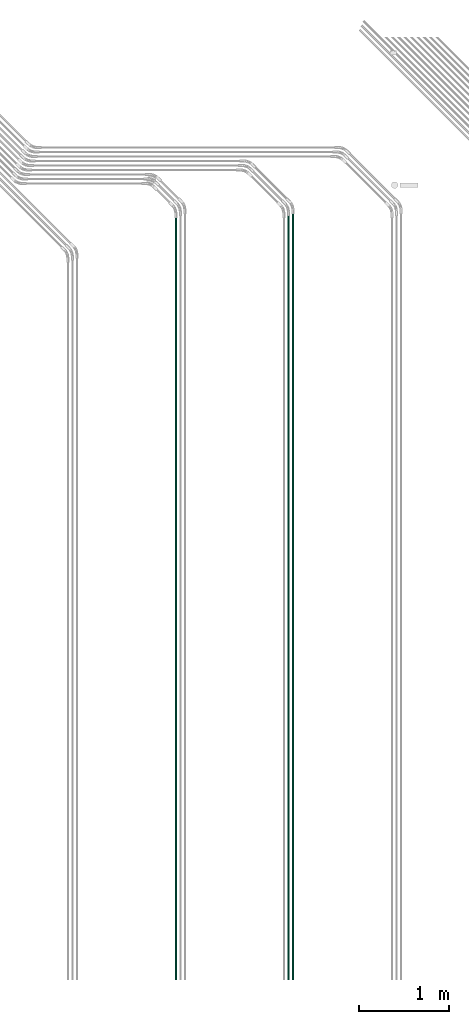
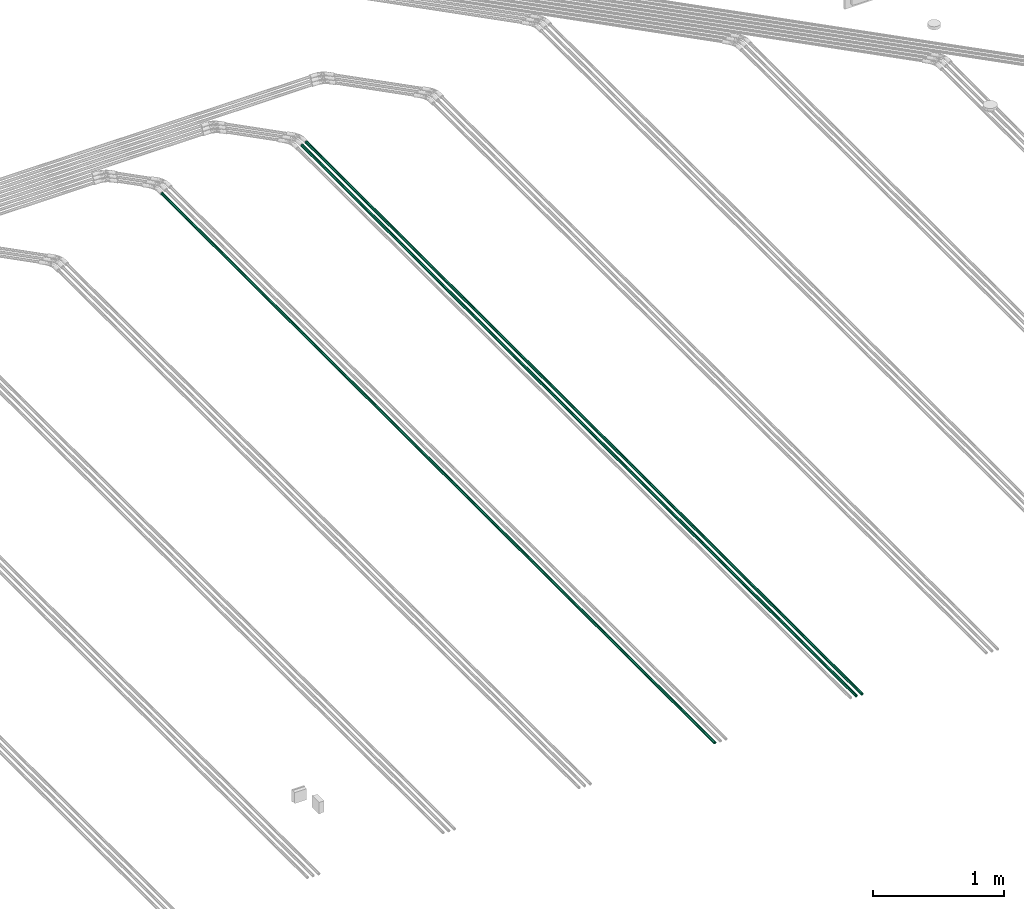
# One storey, part 35 of 51: 3 flow segments.
"""IFC2X3 building model written with IfcOpenShell, lengths in millimetres."""

from ifc_helpers import new_model, entity, si_unit, converted_unit, derived_unit, direction, frame, place, context, subcontext, project, spatial, faceted_brep, type_object, element, save


model = new_model("IFC2X3")

# Units and contexts
model_context = context("Model", 3, precision=0.01, world=frame((0.0, 4.29681676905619e-09, 0.0)), true_north=direction((4.01073788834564e-13, 1.0)))
plan_context = context("Plan", 3, precision=0.01, world=frame((0.0, 4.29681676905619e-09, 0.0)), true_north=direction((4.01073788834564e-13, 1.0)))
body_context = subcontext(model_context, "Body", "Model", "MODEL_VIEW")
ifc_project = project(units=[converted_unit("PLANEANGLEUNIT", "DEGREE", entity("IfcPositiveLengthMeasure", 0.0174532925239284), si_unit("PLANEANGLEUNIT", "RADIAN"), dimensions=[0, 0, 0, 0, 0, 0, 0]), si_unit("AREAUNIT", "SQUARE_METRE"), si_unit("LENGTHUNIT", "METRE", prefix="MILLI"), si_unit("MASSUNIT", "GRAM", prefix="KILO"), si_unit("POWERUNIT", "WATT"), si_unit("PRESSUREUNIT", "PASCAL"), si_unit("FORCEUNIT", "NEWTON", prefix="KILO"), si_unit("ELECTRICVOLTAGEUNIT", "VOLT"), si_unit("ELECTRICCURRENTUNIT", "AMPERE"), si_unit("THERMODYNAMICTEMPERATUREUNIT", "DEGREE_CELSIUS"), si_unit("TIMEUNIT", "SECOND"), si_unit("VOLUMEUNIT", "CUBIC_METRE"), derived_unit("LINEARVELOCITYUNIT", [(si_unit("LENGTHUNIT", "METRE"), 1), (si_unit("TIMEUNIT", "SECOND"), -1)]), derived_unit("VOLUMETRICFLOWRATEUNIT", [(si_unit("VOLUMEUNIT", "CUBIC_METRE"), 1), (si_unit("TIMEUNIT", "SECOND"), -1)]), derived_unit("THERMALTRANSMITTANCEUNIT", [(si_unit("POWERUNIT", "WATT"), 1), (si_unit("THERMODYNAMICTEMPERATUREUNIT", "KELVIN"), -1), (si_unit("AREAUNIT", "SQUARE_METRE"), -1)]), derived_unit("SOUNDPRESSUREUNIT", [(si_unit("PRESSUREUNIT", "PASCAL"), 1)])], contexts=[model_context, plan_context])

# Site, building, storey
site_placement = place(None, frame((0.0, -4.29681676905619e-09, 0.0), z_axis=(0.0, 0.0, 1.0), x_axis=(1.0, 0.0, 0.0)))
site = spatial("IfcSite", under=ifc_project, at=site_placement, Name="ENGM", CompositionType="ELEMENT")
building_placement = place(site_placement, frame((0.0, 4.29681676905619e-09, 0.0), z_axis=(0.0, 0.0, 1.0), x_axis=(1.0, 0.0, 0.0)))
building = spatial("IfcBuilding", under=site, at=building_placement, Name="TI", CompositionType="ELEMENT")
storey_placement = place(building_placement, frame((0.0, 0.0, 210900.0), z_axis=(0.0, 0.0, 1.0), x_axis=(1.0, 0.0, 0.0)))
storey = spatial("IfcBuildingStorey", under=building, at=storey_placement, Name="Nivå F", CompositionType="ELEMENT", Elevation=210900.0)

# Flow segments
cable_carrier_segment_type = type_object("IfcCableCarrierSegmentType", Name="Trekkerør, korrugert", PredefinedType="CONDUITSEGMENT")
flow_segment_1_placement = place(storey_placement, frame((605224.59, 697504.99647, -56.7999999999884), z_axis=(0.0, 0.0, 1.0), x_axis=(0.0, -1.0, 0.0)))
element("IfcFlowSegment", 1, at=flow_segment_1_placement, inside=storey, type_object=cable_carrier_segment_type, Name="Trekkerør, korrugert", context=body_context, shape_type="Brep", body=[
    faceted_brep([(8504.99647000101, 10.5, 0.0), (8504.99647000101, 10.3404814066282, -1.82330586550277), (0.0, 10.3404814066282, -1.82330586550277), (0.0, 10.5, 0.0), (8504.99647000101, 9.86677251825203, -3.59121150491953), (0.0, 9.86677251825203, -3.59121150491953), (8504.99647000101, 9.0932667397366, -5.25), (0.0, 9.0932667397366, -5.25), (8504.99647000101, 8.04346665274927, -6.74926990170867), (0.0, 8.04346665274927, -6.74926990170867), (8504.99647000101, 6.74926990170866, -8.04346665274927), (0.0, 6.74926990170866, -8.04346665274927), (8504.99647000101, 5.25, -9.09326673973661), (0.0, 5.25, -9.09326673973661), (8504.99647000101, 3.59121150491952, -9.86677251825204), (0.0, 3.59121150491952, -9.86677251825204), (8504.99647000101, 1.82330586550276, -10.3404814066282), (0.0, 1.82330586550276, -10.3404814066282), (8504.99647000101, -1.92881870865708e-15, -10.5), (0.0, -1.92881870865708e-15, -10.5), (8504.99647000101, -1.82330586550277, -10.3404814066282), (0.0, -1.82330586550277, -10.3404814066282), (8504.99647000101, -3.59121150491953, -9.86677251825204), (0.0, -3.59121150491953, -9.86677251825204), (8504.99647000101, -5.25, -9.0932667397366), (0.0, -5.25, -9.0932667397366), (8504.99647000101, -6.74926990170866, -8.04346665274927), (0.0, -6.74926990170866, -8.04346665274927), (8504.99647000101, -8.04346665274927, -6.74926990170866), (0.0, -8.04346665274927, -6.74926990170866), (8504.99647000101, -9.09326673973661, -5.25), (0.0, -9.09326673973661, -5.25), (8504.99647000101, -9.86677251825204, -3.59121150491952), (0.0, -9.86677251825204, -3.59121150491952), (8504.99647000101, -10.3404814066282, -1.82330586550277), (0.0, -10.3404814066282, -1.82330586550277), (8504.99647000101, -10.5, 1.28587913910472e-15), (0.0, -10.5, 1.28587913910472e-15), (8504.99647000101, -10.3404814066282, 1.82330586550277), (0.0, -10.3404814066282, 1.82330586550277), (8504.99647000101, -9.86677251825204, 3.59121150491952), (0.0, -9.86677251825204, 3.59121150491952), (8504.99647000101, -9.09326673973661, 5.25), (0.0, -9.09326673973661, 5.25), (8504.99647000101, -8.04346665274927, 6.74926990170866), (0.0, -8.04346665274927, 6.74926990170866), (8504.99647000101, -6.74926990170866, 8.04346665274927), (0.0, -6.74926990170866, 8.04346665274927), (8504.99647000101, -5.25, 9.09326673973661), (0.0, -5.25, 9.09326673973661), (8504.99647000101, -3.59121150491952, 9.86677251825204), (0.0, -3.59121150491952, 9.86677251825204), (8504.99647000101, -1.82330586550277, 10.3404814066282), (0.0, -1.82330586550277, 10.3404814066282), (8504.99647000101, 6.4293956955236e-16, 10.5), (0.0, 6.4293956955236e-16, 10.5), (8504.99647000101, 1.82330586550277, 10.3404814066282), (0.0, 1.82330586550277, 10.3404814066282), (8504.99647000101, 3.59121150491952, 9.86677251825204), (0.0, 3.59121150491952, 9.86677251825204), (8504.99647000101, 5.25, 9.09326673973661), (0.0, 5.25, 9.09326673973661), (8504.99647000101, 6.74926990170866, 8.04346665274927), (0.0, 6.74926990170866, 8.04346665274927), (8504.99647000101, 8.04346665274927, 6.74926990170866), (0.0, 8.04346665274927, 6.74926990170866), (8504.99647000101, 9.09326673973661, 5.25), (0.0, 9.09326673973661, 5.25), (8504.99647000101, 9.86677251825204, 3.59121150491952), (0.0, 9.86677251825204, 3.59121150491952), (8504.99647000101, 10.3404814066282, 1.82330586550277), (0.0, 10.3404814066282, 1.82330586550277), (8504.99647000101, 12.3100969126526, -2.17060222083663), (8504.99647000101, 12.5, 0.0), (0.0, 12.5, 0.0), (0.0, 12.3100969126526, -2.17060222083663), (8504.99647000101, 12.3100969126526, 2.17060222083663), (0.0, 12.3100969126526, 2.17060222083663), (8504.99647000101, 11.7461577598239, 4.27525179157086), (0.0, 11.7461577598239, 4.27525179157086), (8504.99647000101, 10.8253175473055, 6.25), (0.0, 10.8253175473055, 6.25), (8504.99647000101, 9.57555553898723, 8.03484512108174), (0.0, 9.57555553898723, 8.03484512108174), (8504.99647000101, 8.03484512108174, 9.57555553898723), (0.0, 8.03484512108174, 9.57555553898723), (8504.99647000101, 6.25, 10.8253175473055), (0.0, 6.25, 10.8253175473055), (8504.99647000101, 4.27525179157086, 11.7461577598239), (0.0, 4.27525179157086, 11.7461577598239), (8504.99647000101, 2.17060222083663, 12.3100969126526), (0.0, 2.17060222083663, 12.3100969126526), (8504.99647000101, 7.65404249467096e-16, 12.5), (0.0, 7.65404249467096e-16, 12.5), (8504.99647000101, -2.17060222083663, 12.3100969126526), (0.0, -2.17060222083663, 12.3100969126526), (8504.99647000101, -4.27525179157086, 11.7461577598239), (0.0, -4.27525179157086, 11.7461577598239), (8504.99647000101, -6.25, 10.8253175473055), (0.0, -6.25, 10.8253175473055), (8504.99647000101, -8.03484512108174, 9.57555553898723), (0.0, -8.03484512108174, 9.57555553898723), (8504.99647000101, -9.57555553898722, 8.03484512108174), (0.0, -9.57555553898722, 8.03484512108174), (8504.99647000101, -10.8253175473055, 6.25), (0.0, -10.8253175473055, 6.25), (8504.99647000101, -11.7461577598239, 4.27525179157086), (0.0, -11.7461577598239, 4.27525179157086), (8504.99647000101, -12.3100969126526, 2.17060222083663), (0.0, -12.3100969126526, 2.17060222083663), (8504.99647000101, -12.5, 1.53080849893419e-15), (0.0, -12.5, 1.53080849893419e-15), (8504.99647000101, -12.3100969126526, -2.17060222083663), (0.0, -12.3100969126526, -2.17060222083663), (8504.99647000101, -11.7461577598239, -4.27525179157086), (0.0, -11.7461577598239, -4.27525179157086), (8504.99647000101, -10.8253175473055, -6.25), (0.0, -10.8253175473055, -6.25), (8504.99647000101, -9.57555553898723, -8.03484512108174), (0.0, -9.57555553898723, -8.03484512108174), (8504.99647000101, -8.03484512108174, -9.57555553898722), (0.0, -8.03484512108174, -9.57555553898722), (8504.99647000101, -6.25000000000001, -10.8253175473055), (0.0, -6.25000000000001, -10.8253175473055), (8504.99647000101, -4.27525179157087, -11.7461577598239), (0.0, -4.27525179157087, -11.7461577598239), (8504.99647000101, -2.17060222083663, -12.3100969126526), (0.0, -2.17060222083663, -12.3100969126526), (8504.99647000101, -2.29621274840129e-15, -12.5), (0.0, -2.29621274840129e-15, -12.5), (8504.99647000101, 2.17060222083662, -12.3100969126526), (0.0, 2.17060222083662, -12.3100969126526), (8504.99647000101, 4.27525179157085, -11.7461577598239), (0.0, 4.27525179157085, -11.7461577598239), (8504.99647000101, 6.25, -10.8253175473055), (0.0, 6.25, -10.8253175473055), (8504.99647000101, 8.03484512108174, -9.57555553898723), (0.0, 8.03484512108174, -9.57555553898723), (8504.99647000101, 9.57555553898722, -8.03484512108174), (0.0, 9.57555553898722, -8.03484512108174), (8504.99647000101, 10.8253175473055, -6.25000000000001), (0.0, 10.8253175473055, -6.25000000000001), (8504.99647000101, 11.7461577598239, -4.27525179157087), (0.0, 11.7461577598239, -4.27525179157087)], [[[0, 1, 2, 3]], [[1, 4, 5, 2]], [[4, 6, 7, 5]], [[6, 8, 9, 7]], [[8, 10, 11, 9]], [[10, 12, 13, 11]], [[12, 14, 15, 13]], [[14, 16, 17, 15]], [[16, 18, 19, 17]], [[18, 20, 21, 19]], [[20, 22, 23, 21]], [[22, 24, 25, 23]], [[24, 26, 27, 25]], [[26, 28, 29, 27]], [[28, 30, 31, 29]], [[30, 32, 33, 31]], [[32, 34, 35, 33]], [[34, 36, 37, 35]], [[36, 38, 39, 37]], [[38, 40, 41, 39]], [[40, 42, 43, 41]], [[42, 44, 45, 43]], [[44, 46, 47, 45]], [[46, 48, 49, 47]], [[48, 50, 51, 49]], [[50, 52, 53, 51]], [[52, 54, 55, 53]], [[54, 56, 57, 55]], [[56, 58, 59, 57]], [[58, 60, 61, 59]], [[60, 62, 63, 61]], [[62, 64, 65, 63]], [[64, 66, 67, 65]], [[66, 68, 69, 67]], [[68, 70, 71, 69]], [[70, 0, 3, 71]], [[72, 73, 74, 75]], [[73, 76, 77, 74]], [[76, 78, 79, 77]], [[78, 80, 81, 79]], [[80, 82, 83, 81]], [[82, 84, 85, 83]], [[84, 86, 87, 85]], [[86, 88, 89, 87]], [[88, 90, 91, 89]], [[90, 92, 93, 91]], [[92, 94, 95, 93]], [[94, 96, 97, 95]], [[96, 98, 99, 97]], [[98, 100, 101, 99]], [[100, 102, 103, 101]], [[102, 104, 105, 103]], [[104, 106, 107, 105]], [[106, 108, 109, 107]], [[108, 110, 111, 109]], [[110, 112, 113, 111]], [[112, 114, 115, 113]], [[114, 116, 117, 115]], [[116, 118, 119, 117]], [[118, 120, 121, 119]], [[120, 122, 123, 121]], [[122, 124, 125, 123]], [[124, 126, 127, 125]], [[126, 128, 129, 127]], [[128, 130, 131, 129]], [[130, 132, 133, 131]], [[132, 134, 135, 133]], [[134, 136, 137, 135]], [[136, 138, 139, 137]], [[138, 140, 141, 139]], [[140, 142, 143, 141]], [[142, 72, 75, 143]], [[75, 74, 77, 79, 81, 83, 85, 87, 89, 91, 93, 95, 97, 99, 101, 103, 105, 107, 109, 111, 113, 115, 117, 119, 121, 123, 125, 127, 129, 131, 133, 135, 137, 139, 141, 143], [3, 2, 5, 7, 9, 11, 13, 15, 17, 19, 21, 23, 25, 27, 29, 31, 33, 35, 37, 39, 41, 43, 45, 47, 49, 51, 53, 55, 57, 59, 61, 63, 65, 67, 69, 71]], [[142, 140, 138, 136, 134, 132, 130, 128, 126, 124, 122, 120, 118, 116, 114, 112, 110, 108, 106, 104, 102, 100, 98, 96, 94, 92, 90, 88, 86, 84, 82, 80, 78, 76, 73, 72], [70, 68, 66, 64, 62, 60, 58, 56, 54, 52, 50, 48, 46, 44, 42, 40, 38, 36, 34, 32, 30, 28, 26, 24, 22, 20, 18, 16, 14, 12, 10, 8, 6, 4, 1, 0]]], orient=[[False], [False], [False], [False], [False], [False], [False], [False], [False], [False], [False], [False], [False], [False], [False], [False], [False], [False], [False], [False], [False], [False], [False], [False], [False], [False], [False], [False], [False], [False], [False], [False], [False], [False], [False], [False], [False], [False], [False], [False], [False], [False], [False], [False], [False], [False], [False], [False], [False], [False], [False], [False], [False], [False], [False], [False], [False], [False], [False], [False], [False], [False], [False], [False], [False], [False], [False], [False], [False], [False], [False], [False], [False, False], [False, False]]),
])
flow_segment_2_placement = place(storey_placement, frame((605174.59, 697484.28579, -56.7999999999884), z_axis=(0.0, 0.0, 1.0), x_axis=(0.0, -1.0, 0.0)))
element("IfcFlowSegment", 2, at=flow_segment_2_placement, inside=storey, type_object=cable_carrier_segment_type, Name="Trekkerør, korrugert", context=body_context, shape_type="Brep", body=[
    faceted_brep([(8484.28579000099, 10.5, 0.0), (8484.28579000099, 10.3404814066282, -1.82330586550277), (0.0, 10.3404814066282, -1.82330586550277), (0.0, 10.5, 0.0), (8484.28579000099, 9.86677251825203, -3.59121150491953), (0.0, 9.86677251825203, -3.59121150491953), (8484.28579000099, 9.0932667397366, -5.25), (0.0, 9.0932667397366, -5.25), (8484.28579000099, 8.04346665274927, -6.74926990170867), (0.0, 8.04346665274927, -6.74926990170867), (8484.28579000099, 6.74926990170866, -8.04346665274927), (0.0, 6.74926990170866, -8.04346665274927), (8484.28579000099, 5.25, -9.09326673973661), (0.0, 5.25, -9.09326673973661), (8484.28579000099, 3.59121150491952, -9.86677251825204), (0.0, 3.59121150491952, -9.86677251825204), (8484.28579000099, 1.82330586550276, -10.3404814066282), (0.0, 1.82330586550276, -10.3404814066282), (8484.28579000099, -1.92881870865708e-15, -10.5), (0.0, -1.92881870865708e-15, -10.5), (8484.28579000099, -1.82330586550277, -10.3404814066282), (0.0, -1.82330586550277, -10.3404814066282), (8484.28579000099, -3.59121150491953, -9.86677251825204), (0.0, -3.59121150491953, -9.86677251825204), (8484.28579000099, -5.25, -9.0932667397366), (0.0, -5.25, -9.0932667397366), (8484.28579000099, -6.74926990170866, -8.04346665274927), (0.0, -6.74926990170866, -8.04346665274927), (8484.28579000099, -8.04346665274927, -6.74926990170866), (0.0, -8.04346665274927, -6.74926990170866), (8484.28579000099, -9.09326673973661, -5.25), (0.0, -9.09326673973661, -5.25), (8484.28579000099, -9.86677251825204, -3.59121150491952), (0.0, -9.86677251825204, -3.59121150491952), (8484.28579000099, -10.3404814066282, -1.82330586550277), (0.0, -10.3404814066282, -1.82330586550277), (8484.28579000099, -10.5, 1.28587913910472e-15), (0.0, -10.5, 1.28587913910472e-15), (8484.28579000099, -10.3404814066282, 1.82330586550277), (0.0, -10.3404814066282, 1.82330586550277), (8484.28579000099, -9.86677251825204, 3.59121150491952), (0.0, -9.86677251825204, 3.59121150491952), (8484.28579000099, -9.09326673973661, 5.25), (0.0, -9.09326673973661, 5.25), (8484.28579000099, -8.04346665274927, 6.74926990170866), (0.0, -8.04346665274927, 6.74926990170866), (8484.28579000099, -6.74926990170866, 8.04346665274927), (0.0, -6.74926990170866, 8.04346665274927), (8484.28579000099, -5.25, 9.09326673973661), (0.0, -5.25, 9.09326673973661), (8484.28579000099, -3.59121150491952, 9.86677251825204), (0.0, -3.59121150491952, 9.86677251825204), (8484.28579000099, -1.82330586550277, 10.3404814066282), (0.0, -1.82330586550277, 10.3404814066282), (8484.28579000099, 6.4293956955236e-16, 10.5), (0.0, 6.4293956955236e-16, 10.5), (8484.28579000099, 1.82330586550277, 10.3404814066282), (0.0, 1.82330586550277, 10.3404814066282), (8484.28579000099, 3.59121150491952, 9.86677251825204), (0.0, 3.59121150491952, 9.86677251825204), (8484.28579000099, 5.25, 9.09326673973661), (0.0, 5.25, 9.09326673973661), (8484.28579000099, 6.74926990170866, 8.04346665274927), (0.0, 6.74926990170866, 8.04346665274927), (8484.28579000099, 8.04346665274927, 6.74926990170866), (0.0, 8.04346665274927, 6.74926990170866), (8484.28579000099, 9.09326673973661, 5.25), (0.0, 9.09326673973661, 5.25), (8484.28579000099, 9.86677251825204, 3.59121150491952), (0.0, 9.86677251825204, 3.59121150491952), (8484.28579000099, 10.3404814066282, 1.82330586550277), (0.0, 10.3404814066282, 1.82330586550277), (8484.28579000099, 12.3100969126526, -2.17060222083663), (8484.28579000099, 12.5, 0.0), (0.0, 12.5, 0.0), (0.0, 12.3100969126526, -2.17060222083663), (8484.28579000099, 12.3100969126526, 2.17060222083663), (0.0, 12.3100969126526, 2.17060222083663), (8484.28579000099, 11.7461577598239, 4.27525179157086), (0.0, 11.7461577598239, 4.27525179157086), (8484.28579000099, 10.8253175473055, 6.25), (0.0, 10.8253175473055, 6.25), (8484.28579000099, 9.57555553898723, 8.03484512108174), (0.0, 9.57555553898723, 8.03484512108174), (8484.28579000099, 8.03484512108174, 9.57555553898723), (0.0, 8.03484512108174, 9.57555553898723), (8484.28579000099, 6.25, 10.8253175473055), (0.0, 6.25, 10.8253175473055), (8484.28579000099, 4.27525179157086, 11.7461577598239), (0.0, 4.27525179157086, 11.7461577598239), (8484.28579000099, 2.17060222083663, 12.3100969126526), (0.0, 2.17060222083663, 12.3100969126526), (8484.28579000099, 7.65404249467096e-16, 12.5), (0.0, 7.65404249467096e-16, 12.5), (8484.28579000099, -2.17060222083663, 12.3100969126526), (0.0, -2.17060222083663, 12.3100969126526), (8484.28579000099, -4.27525179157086, 11.7461577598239), (0.0, -4.27525179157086, 11.7461577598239), (8484.28579000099, -6.25, 10.8253175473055), (0.0, -6.25, 10.8253175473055), (8484.28579000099, -8.03484512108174, 9.57555553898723), (0.0, -8.03484512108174, 9.57555553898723), (8484.28579000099, -9.57555553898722, 8.03484512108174), (0.0, -9.57555553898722, 8.03484512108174), (8484.28579000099, -10.8253175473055, 6.25), (0.0, -10.8253175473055, 6.25), (8484.28579000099, -11.7461577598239, 4.27525179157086), (0.0, -11.7461577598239, 4.27525179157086), (8484.28579000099, -12.3100969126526, 2.17060222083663), (0.0, -12.3100969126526, 2.17060222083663), (8484.28579000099, -12.5, 1.53080849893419e-15), (0.0, -12.5, 1.53080849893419e-15), (8484.28579000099, -12.3100969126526, -2.17060222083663), (0.0, -12.3100969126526, -2.17060222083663), (8484.28579000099, -11.7461577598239, -4.27525179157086), (0.0, -11.7461577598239, -4.27525179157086), (8484.28579000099, -10.8253175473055, -6.25), (0.0, -10.8253175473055, -6.25), (8484.28579000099, -9.57555553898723, -8.03484512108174), (0.0, -9.57555553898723, -8.03484512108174), (8484.28579000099, -8.03484512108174, -9.57555553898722), (0.0, -8.03484512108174, -9.57555553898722), (8484.28579000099, -6.25000000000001, -10.8253175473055), (0.0, -6.25000000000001, -10.8253175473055), (8484.28579000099, -4.27525179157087, -11.7461577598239), (0.0, -4.27525179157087, -11.7461577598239), (8484.28579000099, -2.17060222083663, -12.3100969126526), (0.0, -2.17060222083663, -12.3100969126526), (8484.28579000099, -2.29621274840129e-15, -12.5), (0.0, -2.29621274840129e-15, -12.5), (8484.28579000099, 2.17060222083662, -12.3100969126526), (0.0, 2.17060222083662, -12.3100969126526), (8484.28579000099, 4.27525179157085, -11.7461577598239), (0.0, 4.27525179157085, -11.7461577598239), (8484.28579000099, 6.25, -10.8253175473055), (0.0, 6.25, -10.8253175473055), (8484.28579000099, 8.03484512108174, -9.57555553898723), (0.0, 8.03484512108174, -9.57555553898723), (8484.28579000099, 9.57555553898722, -8.03484512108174), (0.0, 9.57555553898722, -8.03484512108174), (8484.28579000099, 10.8253175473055, -6.25000000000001), (0.0, 10.8253175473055, -6.25000000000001), (8484.28579000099, 11.7461577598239, -4.27525179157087), (0.0, 11.7461577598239, -4.27525179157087)], [[[0, 1, 2, 3]], [[1, 4, 5, 2]], [[4, 6, 7, 5]], [[6, 8, 9, 7]], [[8, 10, 11, 9]], [[10, 12, 13, 11]], [[12, 14, 15, 13]], [[14, 16, 17, 15]], [[16, 18, 19, 17]], [[18, 20, 21, 19]], [[20, 22, 23, 21]], [[22, 24, 25, 23]], [[24, 26, 27, 25]], [[26, 28, 29, 27]], [[28, 30, 31, 29]], [[30, 32, 33, 31]], [[32, 34, 35, 33]], [[34, 36, 37, 35]], [[36, 38, 39, 37]], [[38, 40, 41, 39]], [[40, 42, 43, 41]], [[42, 44, 45, 43]], [[44, 46, 47, 45]], [[46, 48, 49, 47]], [[48, 50, 51, 49]], [[50, 52, 53, 51]], [[52, 54, 55, 53]], [[54, 56, 57, 55]], [[56, 58, 59, 57]], [[58, 60, 61, 59]], [[60, 62, 63, 61]], [[62, 64, 65, 63]], [[64, 66, 67, 65]], [[66, 68, 69, 67]], [[68, 70, 71, 69]], [[70, 0, 3, 71]], [[72, 73, 74, 75]], [[73, 76, 77, 74]], [[76, 78, 79, 77]], [[78, 80, 81, 79]], [[80, 82, 83, 81]], [[82, 84, 85, 83]], [[84, 86, 87, 85]], [[86, 88, 89, 87]], [[88, 90, 91, 89]], [[90, 92, 93, 91]], [[92, 94, 95, 93]], [[94, 96, 97, 95]], [[96, 98, 99, 97]], [[98, 100, 101, 99]], [[100, 102, 103, 101]], [[102, 104, 105, 103]], [[104, 106, 107, 105]], [[106, 108, 109, 107]], [[108, 110, 111, 109]], [[110, 112, 113, 111]], [[112, 114, 115, 113]], [[114, 116, 117, 115]], [[116, 118, 119, 117]], [[118, 120, 121, 119]], [[120, 122, 123, 121]], [[122, 124, 125, 123]], [[124, 126, 127, 125]], [[126, 128, 129, 127]], [[128, 130, 131, 129]], [[130, 132, 133, 131]], [[132, 134, 135, 133]], [[134, 136, 137, 135]], [[136, 138, 139, 137]], [[138, 140, 141, 139]], [[140, 142, 143, 141]], [[142, 72, 75, 143]], [[75, 74, 77, 79, 81, 83, 85, 87, 89, 91, 93, 95, 97, 99, 101, 103, 105, 107, 109, 111, 113, 115, 117, 119, 121, 123, 125, 127, 129, 131, 133, 135, 137, 139, 141, 143], [3, 2, 5, 7, 9, 11, 13, 15, 17, 19, 21, 23, 25, 27, 29, 31, 33, 35, 37, 39, 41, 43, 45, 47, 49, 51, 53, 55, 57, 59, 61, 63, 65, 67, 69, 71]], [[142, 140, 138, 136, 134, 132, 130, 128, 126, 124, 122, 120, 118, 116, 114, 112, 110, 108, 106, 104, 102, 100, 98, 96, 94, 92, 90, 88, 86, 84, 82, 80, 78, 76, 73, 72], [70, 68, 66, 64, 62, 60, 58, 56, 54, 52, 50, 48, 46, 44, 42, 40, 38, 36, 34, 32, 30, 28, 26, 24, 22, 20, 18, 16, 14, 12, 10, 8, 6, 4, 1, 0]]], orient=[[False], [False], [False], [False], [False], [False], [False], [False], [False], [False], [False], [False], [False], [False], [False], [False], [False], [False], [False], [False], [False], [False], [False], [False], [False], [False], [False], [False], [False], [False], [False], [False], [False], [False], [False], [False], [False], [False], [False], [False], [False], [False], [False], [False], [False], [False], [False], [False], [False], [False], [False], [False], [False], [False], [False], [False], [False], [False], [False], [False], [False], [False], [False], [False], [False], [False], [False], [False], [False], [False], [False], [False], [False, False], [False, False]]),
])
flow_segment_3_placement = place(storey_placement, frame((603924.59, 677870.39699, -56.7999999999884), z_axis=(0.0, 0.0, 1.0), x_axis=(0.0, 1.0, 0.0)))
element("IfcFlowSegment", 3, at=flow_segment_3_placement, inside=storey, type_object=cable_carrier_segment_type, Name="Trekkerør, korrugert", context=body_context, shape_type="Brep", body=[
    faceted_brep([(11129.603009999, 10.3404814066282, -1.82330586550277), (11129.603009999, 10.5, 0.0), (19593.2, 10.5, 0.0), (19593.2, 10.3404814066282, -1.82330586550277), (11129.603009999, 9.86677251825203, -3.59121150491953), (19593.2, 9.86677251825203, -3.59121150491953), (11129.603009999, 9.0932667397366, -5.25000000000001), (19593.2, 9.0932667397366, -5.25), (11129.603009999, 8.04346665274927, -6.74926990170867), (19593.2, 8.04346665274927, -6.74926990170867), (11129.603009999, 6.74926990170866, -8.04346665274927), (19593.2, 6.74926990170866, -8.04346665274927), (11129.603009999, 5.25, -9.09326673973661), (19593.2, 5.25, -9.09326673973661), (11129.603009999, 3.59121150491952, -9.86677251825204), (19593.2, 3.59121150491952, -9.86677251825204), (11129.603009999, 1.82330586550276, -10.3404814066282), (19593.2, 1.82330586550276, -10.3404814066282), (11129.603009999, -1.92881870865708e-15, -10.5), (19593.2, -1.92881870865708e-15, -10.5), (11129.603009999, -1.82330586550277, -10.3404814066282), (19593.2, -1.82330586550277, -10.3404814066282), (11129.603009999, -3.59121150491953, -9.86677251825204), (19593.2, -3.59121150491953, -9.86677251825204), (11129.603009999, -5.25000000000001, -9.09326673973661), (19593.2, -5.25, -9.0932667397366), (11129.603009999, -6.74926990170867, -8.04346665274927), (19593.2, -6.74926990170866, -8.04346665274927), (11129.603009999, -8.04346665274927, -6.74926990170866), (19593.2, -8.04346665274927, -6.74926990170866), (11129.603009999, -9.09326673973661, -5.25), (19593.2, -9.09326673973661, -5.25), (11129.603009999, -9.86677251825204, -3.59121150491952), (19593.2, -9.86677251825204, -3.59121150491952), (11129.603009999, -10.3404814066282, -1.82330586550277), (19593.2, -10.3404814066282, -1.82330586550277), (11129.603009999, -10.5, 1.28587913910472e-15), (19593.2, -10.5, 1.28587913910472e-15), (11129.603009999, -10.3404814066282, 1.82330586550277), (19593.2, -10.3404814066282, 1.82330586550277), (11129.603009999, -9.86677251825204, 3.59121150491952), (19593.2, -9.86677251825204, 3.59121150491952), (11129.603009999, -9.09326673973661, 5.25), (19593.2, -9.09326673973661, 5.25), (11129.603009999, -8.04346665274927, 6.74926990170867), (19593.2, -8.04346665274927, 6.74926990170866), (11129.603009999, -6.74926990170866, 8.04346665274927), (19593.2, -6.74926990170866, 8.04346665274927), (11129.603009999, -5.25, 9.09326673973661), (19593.2, -5.25, 9.09326673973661), (11129.603009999, -3.59121150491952, 9.86677251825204), (19593.2, -3.59121150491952, 9.86677251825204), (11129.603009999, -1.82330586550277, 10.3404814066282), (19593.2, -1.82330586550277, 10.3404814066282), (11129.603009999, 6.4293956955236e-16, 10.5), (19593.2, 6.4293956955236e-16, 10.5), (11129.603009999, 1.82330586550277, 10.3404814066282), (19593.2, 1.82330586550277, 10.3404814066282), (11129.603009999, 3.59121150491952, 9.86677251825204), (19593.2, 3.59121150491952, 9.86677251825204), (11129.603009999, 5.25, 9.09326673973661), (19593.2, 5.25, 9.09326673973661), (11129.603009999, 6.74926990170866, 8.04346665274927), (19593.2, 6.74926990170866, 8.04346665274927), (11129.603009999, 8.04346665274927, 6.74926990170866), (19593.2, 8.04346665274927, 6.74926990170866), (11129.603009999, 9.09326673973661, 5.25), (19593.2, 9.09326673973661, 5.25), (11129.603009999, 9.86677251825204, 3.59121150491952), (19593.2, 9.86677251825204, 3.59121150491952), (11129.603009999, 10.3404814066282, 1.82330586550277), (19593.2, 10.3404814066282, 1.82330586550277), (11129.603009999, 12.5, 0.0), (11129.603009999, 12.3100969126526, -2.17060222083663), (19593.2, 12.3100969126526, -2.17060222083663), (19593.2, 12.5, 0.0), (11129.603009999, 12.3100969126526, 2.17060222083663), (19593.2, 12.3100969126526, 2.17060222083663), (11129.603009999, 11.7461577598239, 4.27525179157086), (19593.2, 11.7461577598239, 4.27525179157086), (11129.603009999, 10.8253175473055, 6.25), (19593.2, 10.8253175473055, 6.25), (11129.603009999, 9.57555553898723, 8.03484512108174), (19593.2, 9.57555553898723, 8.03484512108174), (11129.603009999, 8.03484512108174, 9.57555553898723), (19593.2, 8.03484512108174, 9.57555553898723), (11129.603009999, 6.25, 10.8253175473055), (19593.2, 6.25, 10.8253175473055), (11129.603009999, 4.27525179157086, 11.7461577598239), (19593.2, 4.27525179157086, 11.7461577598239), (11129.603009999, 2.17060222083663, 12.3100969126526), (19593.2, 2.17060222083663, 12.3100969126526), (11129.603009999, 7.65404249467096e-16, 12.5), (19593.2, 7.65404249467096e-16, 12.5), (11129.603009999, -2.17060222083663, 12.3100969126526), (19593.2, -2.17060222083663, 12.3100969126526), (11129.603009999, -4.27525179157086, 11.7461577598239), (19593.2, -4.27525179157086, 11.7461577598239), (11129.603009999, -6.25, 10.8253175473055), (19593.2, -6.25, 10.8253175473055), (11129.603009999, -8.03484512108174, 9.57555553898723), (19593.2, -8.03484512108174, 9.57555553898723), (11129.603009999, -9.57555553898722, 8.03484512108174), (19593.2, -9.57555553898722, 8.03484512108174), (11129.603009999, -10.8253175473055, 6.25), (19593.2, -10.8253175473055, 6.25), (11129.603009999, -11.7461577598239, 4.27525179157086), (19593.2, -11.7461577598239, 4.27525179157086), (11129.603009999, -12.3100969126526, 2.17060222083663), (19593.2, -12.3100969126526, 2.17060222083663), (11129.603009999, -12.5, 1.53080849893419e-15), (19593.2, -12.5, 1.53080849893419e-15), (11129.603009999, -12.3100969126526, -2.17060222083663), (19593.2, -12.3100969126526, -2.17060222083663), (11129.603009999, -11.7461577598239, -4.27525179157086), (19593.2, -11.7461577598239, -4.27525179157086), (11129.603009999, -10.8253175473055, -6.25), (19593.2, -10.8253175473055, -6.25), (11129.603009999, -9.57555553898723, -8.03484512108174), (19593.2, -9.57555553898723, -8.03484512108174), (11129.603009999, -8.03484512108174, -9.57555553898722), (19593.2, -8.03484512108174, -9.57555553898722), (11129.603009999, -6.25000000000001, -10.8253175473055), (19593.2, -6.25000000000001, -10.8253175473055), (11129.603009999, -4.27525179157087, -11.7461577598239), (19593.2, -4.27525179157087, -11.7461577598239), (11129.603009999, -2.17060222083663, -12.3100969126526), (19593.2, -2.17060222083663, -12.3100969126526), (11129.603009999, -2.29621274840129e-15, -12.5), (19593.2, -2.29621274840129e-15, -12.5), (11129.603009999, 2.17060222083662, -12.3100969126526), (19593.2, 2.17060222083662, -12.3100969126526), (11129.603009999, 4.27525179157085, -11.7461577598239), (19593.2, 4.27525179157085, -11.7461577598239), (11129.603009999, 6.25, -10.8253175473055), (19593.2, 6.25, -10.8253175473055), (11129.603009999, 8.03484512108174, -9.57555553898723), (19593.2, 8.03484512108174, -9.57555553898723), (11129.603009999, 9.57555553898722, -8.03484512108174), (19593.2, 9.57555553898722, -8.03484512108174), (11129.603009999, 10.8253175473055, -6.25000000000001), (19593.2, 10.8253175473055, -6.25000000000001), (11129.603009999, 11.7461577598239, -4.27525179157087), (19593.2, 11.7461577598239, -4.27525179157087)], [[[0, 1, 2, 3]], [[4, 0, 3, 5]], [[6, 4, 5, 7]], [[8, 6, 7, 9]], [[10, 8, 9, 11]], [[12, 10, 11, 13]], [[14, 12, 13, 15]], [[16, 14, 15, 17]], [[18, 16, 17, 19]], [[20, 18, 19, 21]], [[22, 20, 21, 23]], [[24, 22, 23, 25]], [[26, 24, 25, 27]], [[28, 26, 27, 29]], [[30, 28, 29, 31]], [[32, 30, 31, 33]], [[34, 32, 33, 35]], [[36, 34, 35, 37]], [[38, 36, 37, 39]], [[40, 38, 39, 41]], [[42, 40, 41, 43]], [[44, 42, 43, 45]], [[46, 44, 45, 47]], [[48, 46, 47, 49]], [[50, 48, 49, 51]], [[52, 50, 51, 53]], [[54, 52, 53, 55]], [[56, 54, 55, 57]], [[58, 56, 57, 59]], [[60, 58, 59, 61]], [[62, 60, 61, 63]], [[64, 62, 63, 65]], [[66, 64, 65, 67]], [[68, 66, 67, 69]], [[70, 68, 69, 71]], [[1, 70, 71, 2]], [[72, 73, 74, 75]], [[76, 72, 75, 77]], [[78, 76, 77, 79]], [[80, 78, 79, 81]], [[82, 80, 81, 83]], [[84, 82, 83, 85]], [[86, 84, 85, 87]], [[88, 86, 87, 89]], [[90, 88, 89, 91]], [[92, 90, 91, 93]], [[94, 92, 93, 95]], [[96, 94, 95, 97]], [[98, 96, 97, 99]], [[100, 98, 99, 101]], [[102, 100, 101, 103]], [[104, 102, 103, 105]], [[106, 104, 105, 107]], [[108, 106, 107, 109]], [[110, 108, 109, 111]], [[112, 110, 111, 113]], [[114, 112, 113, 115]], [[116, 114, 115, 117]], [[118, 116, 117, 119]], [[120, 118, 119, 121]], [[122, 120, 121, 123]], [[124, 122, 123, 125]], [[126, 124, 125, 127]], [[128, 126, 127, 129]], [[130, 128, 129, 131]], [[132, 130, 131, 133]], [[134, 132, 133, 135]], [[136, 134, 135, 137]], [[138, 136, 137, 139]], [[140, 138, 139, 141]], [[142, 140, 141, 143]], [[73, 142, 143, 74]], [[75, 74, 143, 141, 139, 137, 135, 133, 131, 129, 127, 125, 123, 121, 119, 117, 115, 113, 111, 109, 107, 105, 103, 101, 99, 97, 95, 93, 91, 89, 87, 85, 83, 81, 79, 77], [2, 71, 69, 67, 65, 63, 61, 59, 57, 55, 53, 51, 49, 47, 45, 43, 41, 39, 37, 35, 33, 31, 29, 27, 25, 23, 21, 19, 17, 15, 13, 11, 9, 7, 5, 3]], [[76, 78, 80, 82, 84, 86, 88, 90, 92, 94, 96, 98, 100, 102, 104, 106, 108, 110, 112, 114, 116, 118, 120, 122, 124, 126, 128, 130, 132, 134, 136, 138, 140, 142, 73, 72], [4, 6, 8, 10, 12, 14, 16, 18, 20, 22, 24, 26, 28, 30, 32, 34, 36, 38, 40, 42, 44, 46, 48, 50, 52, 54, 56, 58, 60, 62, 64, 66, 68, 70, 1, 0]]], orient=[[False], [False], [False], [False], [False], [False], [False], [False], [False], [False], [False], [False], [False], [False], [False], [False], [False], [False], [False], [False], [False], [False], [False], [False], [False], [False], [False], [False], [False], [False], [False], [False], [False], [False], [False], [False], [False], [False], [False], [False], [False], [False], [False], [False], [False], [False], [False], [False], [False], [False], [False], [False], [False], [False], [False], [False], [False], [False], [False], [False], [False], [False], [False], [False], [False], [False], [False], [False], [False], [False], [False], [False], [False, False], [False, False]]),
])

save(model, "model.ifc")
